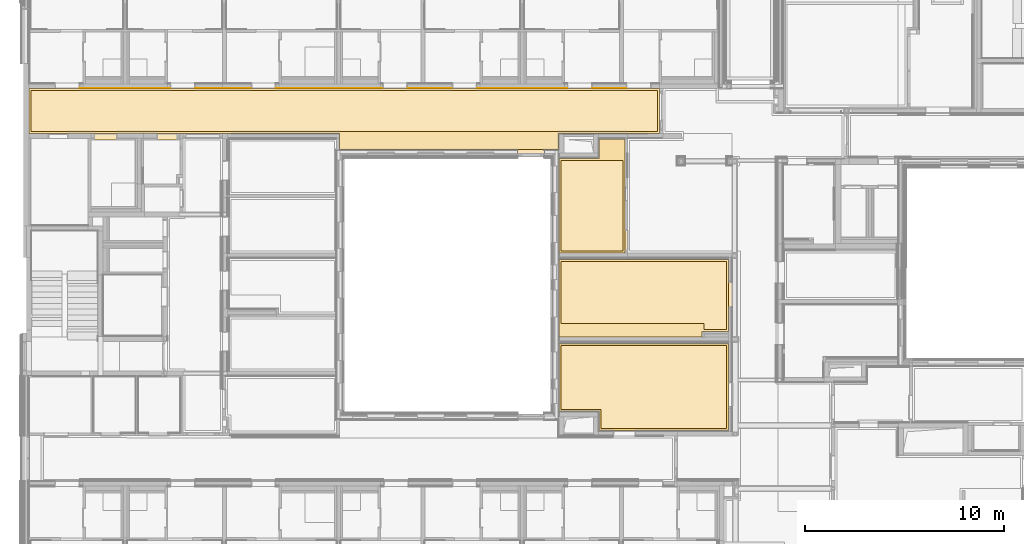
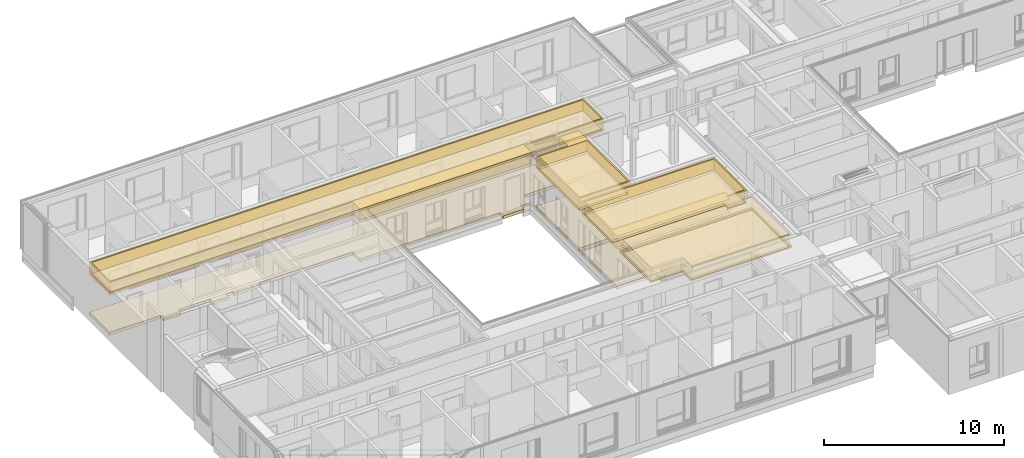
# One storey, part 164 of 207: 33 coverings.
"""IFC4 building model written with IfcOpenShell, lengths in metres."""

from ifc_helpers import new_model, entity, si_unit, converted_unit, derived_unit, frame, frame_2d, origin, origin_with_axes, place, context, subcontext, project, spatial, polyline, rectangle, outline, extrude, material, layer, layer_set, layer_usage, element, save


model = new_model("IFC4")

# Units and contexts
model_context = context("Model", 3, precision=1e-05, world=origin())
body_context = subcontext(model_context, "Body", "Model", "MODEL_VIEW")
ifc_project = project(units=[si_unit("LENGTHUNIT", "METRE"), si_unit("AREAUNIT", "SQUARE_METRE"), si_unit("VOLUMEUNIT", "CUBIC_METRE"), si_unit("MASSUNIT", "GRAM", prefix="KILO"), converted_unit("PLANEANGLEUNIT", "DEGREE", entity("IfcPlaneAngleMeasure", 0.0174532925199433), si_unit("PLANEANGLEUNIT", "RADIAN"), dimensions=[0, 0, 0, 0, 0, 0, 0]), derived_unit("THERMALTRANSMITTANCEUNIT", [(si_unit("POWERUNIT", "WATT"), 1), (si_unit("THERMODYNAMICTEMPERATUREUNIT", "KELVIN"), -1), (si_unit("LENGTHUNIT", "METRE"), -2)]), derived_unit("VOLUMETRICFLOWRATEUNIT", [(si_unit("LENGTHUNIT", "METRE"), 3), (converted_unit("TIMEUNIT", "hour", entity("IfcTimeMeasure", 3600.0), si_unit("TIMEUNIT", "SECOND"), dimensions=[0, 0, 1, 0, 0, 0, 0]), -1), (si_unit("LENGTHUNIT", "METRE"), -1)])], contexts=[model_context])

# Site, building, storey, space
site_placement = place(None, origin())
site = spatial("IfcSite", under=ifc_project, at=site_placement, Name="Psychiatrie Neubau Wunstorf", CompositionType="ELEMENT")
building_placement = place(site_placement, origin())
building = spatial("IfcBuilding", under=site, at=building_placement, Name="Neubau H2 Stationsgebäude", CompositionType="ELEMENT")
storey_placement = place(building_placement, frame((0.0, 0.0, -0.2)))
storey = spatial("IfcBuildingStorey", under=building, at=storey_placement, Name="H2 Ebene 0", CompositionType="ELEMENT", Elevation=-0.2)
space_1_placement = place(storey_placement, frame((0.169000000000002, 21.036, 0.0)))
space_1 = spatial("IfcSpace", under=storey, at=space_1_placement, Name="WUN-H2-E00-F06", CompositionType="ELEMENT")

# Coverings
ifc_material_1 = material(Name="Ku1")
ifc_layer_1 = layer(ifc_material_1, 0.2)
ifc_layer_set_1 = layer_set([ifc_layer_1])
ifc_layer_usage_1 = layer_usage(ifc_layer_set_1, "AXIS3", "POSITIVE", 0.0)
covering_1_placement = place(space_1_placement, frame((0.0, -0.372, 0.0)))
element("IfcCovering", 1, at=covering_1_placement, inside=space_1, material=ifc_layer_usage_1, Name="PVC Bahnenware Holzoptik", PredefinedType="FLOORING", context=body_context, shape_type="SweptSolid", body=[
    extrude(rectangle(XDim=0.372, YDim=1.35000000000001, at=frame_2d((0.675000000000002, -0.186), x_axis=(-9.77951292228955e-15, -1.0))), frame((24.6011686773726, 0.372, 0.0), z_axis=(0.0, 0.0, 1.0), x_axis=(1.0, 0.0, 0.0)), (0.0, 0.0, 1.0), 0.2),
    extrude(rectangle(XDim=0.307, YDim=1.01, at=frame_2d((0.505, -0.1535), x_axis=(0.0, -1.0))), frame((6.44599350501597, 1.172, 0.0), z_axis=(0.0, 0.0, 1.0), x_axis=(1.0, 0.0, 0.0)), (0.0, 0.0, 1.0), 0.2),
    extrude(rectangle(XDim=0.155, YDim=1.6825, at=frame_2d((0.84125, -0.0775), x_axis=(0.0, -1.0))), frame((7.911, 1.172, 0.0), z_axis=(0.0, 0.0, 1.0), x_axis=(1.0, 0.0, 0.0)), (0.0, 0.0, 1.0), 0.2),
    extrude(rectangle(XDim=0.307, YDim=1.135, at=frame_2d((0.5675, -0.1535), x_axis=(0.0, -1.0))), frame((3.28100622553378, 1.172, 0.0), z_axis=(0.0, 0.0, 1.0), x_axis=(1.0, 0.0, 0.0)), (0.0, 0.0, 1.0), 0.2),
    extrude(outline(polyline([(31.759, 3.08150000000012), (0.0, 3.08150000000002), (0.0, 0.799999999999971), (15.62, 0.799999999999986), (15.62, 0.0), (26.651, 0.0), (26.651, 0.800000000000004), (31.759, 0.800000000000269), (31.759, 3.08150000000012)])), frame((0.0, 0.372, 0.0), z_axis=(0.0, 0.0, 1.0), x_axis=(1.0, 0.0, 0.0)), (0.0, 0.0, 1.0), 0.2),
])
ifc_material_2 = material(Name="97")
ifc_layer_2 = layer(ifc_material_2, 0.001)
ifc_layer_set_2 = layer_set([ifc_layer_2])
ifc_layer_usage_2 = layer_usage(ifc_layer_set_2, "AXIS3", "POSITIVE", 0.0)
covering_2_placement = place(space_1_placement, frame((2.556, 3.0815, 0.8)))
element("IfcCovering", 2, at=covering_2_placement, inside=space_1, material=ifc_layer_usage_2, Name="Handlauf", PredefinedType="CLADDING", context=body_context, shape_type="SweptSolid", body=[
    extrude(rectangle(XDim=0.1, YDim=4.55, at=frame_2d((2.275, 0.05), x_axis=(0.0, 1.0))), frame((4.55, 0.0, 0.1), z_axis=(-7.99555781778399e-16, -1.0, 0.0), x_axis=(-1.0, 7.99555781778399e-16, 0.0)), (0.0, 0.0, 1.0), 0.001),
    extrude(rectangle(XDim=0.1, YDim=4.55, at=frame_2d((-2.275, -0.05), x_axis=(0.0, -1.0))), frame((20.0, 0.0, 0.0), z_axis=(-1.1993336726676e-15, -1.0, 1.81898940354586e-14), x_axis=(-1.0, 1.1993336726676e-15, 0.0)), (0.0, 0.0, 1.0), 0.001),
    extrude(rectangle(XDim=0.1, YDim=2.805, at=frame_2d((-1.4025, -0.05), x_axis=(0.0, -1.0))), frame((5.81, 0.0, 0.0), z_axis=(0.0, -1.0, 0.0), x_axis=(-1.0, 0.0, 0.0)), (0.0, 0.0, 1.0), 0.001),
    extrude(rectangle(XDim=0.1, YDim=2.24, at=frame_2d((-1.12, -0.05), x_axis=(0.0, -1.0))), frame((16.5, 0.0, 0.0), z_axis=(-1.62409768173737e-15, -1.0, 3.63797880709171e-14), x_axis=(-1.0, 1.62409768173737e-15, 0.0)), (0.0, 0.0, 1.0), 0.001),
    extrude(rectangle(XDim=0.1, YDim=5.365, at=frame_2d((-2.6825, -0.05), x_axis=(0.0, -1.0))), frame((9.875, 0.0, 0.0), z_axis=(-6.78094838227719e-16, -1.0, 0.0), x_axis=(-1.0, 6.78094838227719e-16, 0.0)), (0.0, 0.0, 1.0), 0.001),
    extrude(rectangle(XDim=0.1, YDim=1.715, at=frame_2d((-0.8575, -0.05), x_axis=(0.0, -1.0))), frame((25.81, 0.0, 0.0), z_axis=(0.0, -1.0, 0.0), x_axis=(-1.0, 0.0, 0.0)), (0.0, 0.0, 1.0), 0.001),
])
ifc_material_3 = material()
ifc_layer_3 = layer(ifc_material_3, 0.036)
ifc_layer_set_3 = layer_set([ifc_layer_3])
ifc_layer_usage_3 = layer_usage(ifc_layer_set_3, "AXIS3", "POSITIVE", 0.0)
covering_3_placement = place(space_1_placement, frame((0.0999999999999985, 0.900000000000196, 3.6)))
element("IfcCovering", 3, at=covering_3_placement, inside=space_1, material=ifc_layer_usage_3, Name="Gipsfaserplatten 2-lagig (BSK)", PredefinedType="CEILING", context=body_context, shape_type="SweptSolid", body=[
    extrude(rectangle(XDim=31.559, YDim=2.08149999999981, at=frame_2d((15.7795, 1.04074999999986), x_axis=(1.0, -2.99716242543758e-15))), frame((0.0, 2.08149999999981, 0.0), z_axis=(0.0, 0.0, -1.0), x_axis=(1.0, 0.0, 0.0)), (0.0, 0.0, 1.0), 0.036),
])
ifc_material_4 = material(Name="Installationshöhe")
ifc_layer_4 = layer(ifc_material_4, 0.714)
ifc_layer_set_4 = layer_set([ifc_layer_4])
ifc_layer_usage_4 = layer_usage(ifc_layer_set_4, "AXIS3", "POSITIVE", 0.0)
covering_4_placement = place(space_1_placement, frame((0.0999999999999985, 0.900000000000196, 3.564)))
element("IfcCovering", 4, at=covering_4_placement, inside=space_1, material=ifc_layer_usage_4, Name="Gipsfaserplatten 2-lagig (BSK)", PredefinedType="CEILING", context=body_context, shape_type="SweptSolid", body=[
    extrude(rectangle(XDim=31.559, YDim=2.08149999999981, at=frame_2d((15.7795, 1.04074999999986), x_axis=(1.0, -2.99716242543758e-15))), frame((0.0, 2.08149999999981, 0.0), z_axis=(0.0, 0.0, -1.0), x_axis=(1.0, 0.0, 0.0)), (0.0, 0.0, 1.0), 0.714),
])
ifc_material_5 = material(Name="Aa")
ifc_layer_5 = layer(ifc_material_5, 0.15)
ifc_layer_set_5 = layer_set([ifc_layer_5])
ifc_layer_usage_5 = layer_usage(ifc_layer_set_5, "AXIS3", "POSITIVE", 0.0)
covering_5_placement = place(space_1_placement, frame((0.0999999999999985, 0.900000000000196, 2.85)))
element("IfcCovering", 5, at=covering_5_placement, inside=space_1, material=ifc_layer_usage_5, Name="Gipsfaserplatten 2-lagig (BSK)", PredefinedType="CEILING", context=body_context, shape_type="SweptSolid", body=[
    extrude(rectangle(XDim=31.559, YDim=2.08149999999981, at=frame_2d((15.7795, 1.04074999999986), x_axis=(1.0, -2.99716242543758e-15))), frame((0.0, 2.08149999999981, 0.0), z_axis=(0.0, 0.0, -1.0), x_axis=(1.0, 0.0, 0.0)), (0.0, 0.0, 1.0), 0.15),
])
ifc_material_6 = material(Name="D1")
ifc_layer_6 = layer(ifc_material_6, 0.001)
ifc_layer_set_6 = layer_set([ifc_layer_6])
ifc_layer_usage_6 = layer_usage(ifc_layer_set_6, "AXIS3", "POSITIVE", 0.0)
covering_6_placement = place(space_1_placement, frame((0.0999999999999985, 0.900000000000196, 2.7)))
element("IfcCovering", 6, at=covering_6_placement, inside=space_1, material=ifc_layer_usage_6, Name="Gipsfaserplatten 2-lagig (BSK)", PredefinedType="CEILING", context=body_context, shape_type="SweptSolid", body=[
    extrude(rectangle(XDim=31.559, YDim=2.08149999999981, at=frame_2d((15.7795, 1.04074999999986), x_axis=(1.0, -2.99716242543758e-15))), frame((0.0, 2.08149999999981, 0.0), z_axis=(0.0, 0.0, -1.0), x_axis=(1.0, 0.0, 0.0)), (0.0, 0.0, 1.0), 0.001),
])
ifc_material_7 = material()
ifc_layer_7 = layer(ifc_material_7, 0.036)
ifc_layer_set_7 = layer_set([ifc_layer_7])
ifc_layer_usage_7 = layer_usage(ifc_layer_set_7, "AXIS3", "POSITIVE", 0.0)
covering_7_placement = place(space_1_placement, frame((0.0, 0.0, 3.6)))
element("IfcCovering", 7, at=covering_7_placement, inside=space_1, material=ifc_layer_usage_7, Name="Gipsfaserplatten 2-lagig (BSK)", PredefinedType="CEILING", context=body_context, shape_type="SweptSolid", body=[
    extrude(outline(polyline([(0.0, 0.0), (31.759, 0.0), (31.759, 2.28150000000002), (26.651, 2.28150000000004), (26.651, 3.08150000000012), (15.62, 3.08150000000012), (15.62, 2.28150000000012), (0.0, 2.28150000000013), (0.0, 0.0)]), holes=[polyline([(0.1, 0.100000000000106), (0.1, 2.18149999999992), (31.659, 2.18149999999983), (31.659, 0.100000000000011), (0.1, 0.100000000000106)])]), frame((0.0, 3.08150000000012, 0.0), z_axis=(0.0, 0.0, -1.0), x_axis=(1.0, 0.0, 0.0)), (0.0, 0.0, 1.0), 0.036),
])
ifc_material_8 = material(Name="Installationshöhe")
ifc_layer_8 = layer(ifc_material_8, 0.714)
ifc_layer_set_8 = layer_set([ifc_layer_8])
ifc_layer_usage_8 = layer_usage(ifc_layer_set_8, "AXIS3", "POSITIVE", 0.0)
covering_8_placement = place(space_1_placement, frame((0.0, 0.0, 3.564)))
element("IfcCovering", 8, at=covering_8_placement, inside=space_1, material=ifc_layer_usage_8, Name="Gipsfaserplatten 2-lagig (BSK)", PredefinedType="CEILING", context=body_context, shape_type="SweptSolid", body=[
    extrude(outline(polyline([(0.0, 0.0), (31.759, 0.0), (31.759, 2.28150000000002), (26.651, 2.28150000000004), (26.651, 3.08150000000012), (15.62, 3.08150000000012), (15.62, 2.28150000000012), (0.0, 2.28150000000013), (0.0, 0.0)]), holes=[polyline([(0.1, 0.100000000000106), (0.1, 2.18149999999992), (31.659, 2.18149999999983), (31.659, 0.100000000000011), (0.1, 0.100000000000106)])]), frame((0.0, 3.08150000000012, 0.0), z_axis=(0.0, 0.0, -1.0), x_axis=(1.0, 0.0, 0.0)), (0.0, 0.0, 1.0), 0.714),
])
ifc_material_9 = material(Name="A1")
ifc_layer_9 = layer(ifc_material_9, 0.15)
ifc_layer_set_9 = layer_set([ifc_layer_9])
ifc_layer_usage_9 = layer_usage(ifc_layer_set_9, "AXIS3", "POSITIVE", 0.0)
covering_9_placement = place(space_1_placement, frame((0.0, 0.0, 2.85)))
element("IfcCovering", 9, at=covering_9_placement, inside=space_1, material=ifc_layer_usage_9, Name="Gipsfaserplatten 2-lagig (BSK)", PredefinedType="CEILING", context=body_context, shape_type="SweptSolid", body=[
    extrude(outline(polyline([(0.0, 0.0), (31.759, 0.0), (31.759, 2.28150000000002), (26.651, 2.28150000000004), (26.651, 3.08150000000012), (15.62, 3.08150000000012), (15.62, 2.28150000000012), (0.0, 2.28150000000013), (0.0, 0.0)]), holes=[polyline([(0.1, 0.100000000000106), (0.1, 2.18149999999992), (31.659, 2.18149999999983), (31.659, 0.100000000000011), (0.1, 0.100000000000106)])]), frame((0.0, 3.08150000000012, 0.0), z_axis=(0.0, 0.0, -1.0), x_axis=(1.0, 0.0, 0.0)), (0.0, 0.0, 1.0), 0.15),
])
ifc_material_10 = material(Name="D1")
ifc_layer_10 = layer(ifc_material_10, 0.001)
ifc_layer_set_10 = layer_set([ifc_layer_10])
ifc_layer_usage_10 = layer_usage(ifc_layer_set_10, "AXIS3", "POSITIVE", 0.0)
covering_10_placement = place(space_1_placement, frame((0.0, 0.0, 2.7)))
element("IfcCovering", 10, at=covering_10_placement, inside=space_1, material=ifc_layer_usage_10, Name="Gipsfaserplatten 2-lagig (BSK)", PredefinedType="CEILING", context=body_context, shape_type="SweptSolid", body=[
    extrude(outline(polyline([(0.0, 0.0), (31.759, 0.0), (31.759, 2.28150000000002), (26.651, 2.28150000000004), (26.651, 3.08150000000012), (15.62, 3.08150000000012), (15.62, 2.28150000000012), (0.0, 2.28150000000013), (0.0, 0.0)]), holes=[polyline([(0.1, 0.100000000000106), (0.1, 2.18149999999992), (31.659, 2.18149999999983), (31.659, 0.100000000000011), (0.1, 0.100000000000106)])]), frame((0.0, 3.08150000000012, 0.0), z_axis=(0.0, 0.0, -1.0), x_axis=(1.0, 0.0, 0.0)), (0.0, 0.0, 1.0), 0.001),
])

# Space
space_2_placement = place(storey_placement, frame((26.861, 15.8324990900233, 0.0)))
space_2 = spatial("IfcSpace", under=storey, at=space_2_placement, Name="WUN-H2-E00-007", CompositionType="ELEMENT")

# Coverings
ifc_material_11 = material(Name="Ku1")
ifc_layer_11 = layer(ifc_material_11, 0.2)
ifc_layer_set_11 = layer_set([ifc_layer_11])
ifc_layer_usage_11 = layer_usage(ifc_layer_set_11, "AXIS3", "POSITIVE", 0.0)
covering_11_placement = place(space_2_placement, origin())
element("IfcCovering", 11, at=covering_11_placement, inside=space_2, material=ifc_layer_usage_11, Name="PVC Bahnenware Holzoptik", PredefinedType="FLOORING", context=body_context, shape_type="SweptSolid", body=[
    extrude(rectangle(XDim=0.15, YDim=1.01, at=frame_2d((0.075, 0.504999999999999), x_axis=(1.0, 0.0))), frame((3.30584904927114, 0.125009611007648, 0.0), z_axis=(0.0, 0.0, 1.0), x_axis=(1.0, 0.0, 0.0)), (0.0, 0.0, 1.0), 0.2),
    extrude(outline(polyline([(2.01900000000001, 4.76250090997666), (0.0, 4.76250090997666), (0.0, 0.0), (3.30584904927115, 0.0), (3.30584904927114, 5.73300090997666), (2.01899999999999, 5.73150090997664), (2.01900000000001, 4.76250090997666)])), origin_with_axes(), (0.0, 0.0, 1.0), 0.2),
])
ifc_material_12 = material()
ifc_layer_12 = layer(ifc_material_12, 0.036)
ifc_layer_set_12 = layer_set([ifc_layer_12])
ifc_layer_usage_12 = layer_usage(ifc_layer_set_12, "AXIS3", "POSITIVE", 0.0)
covering_12_placement = place(space_2_placement, frame((0.1, 0.100000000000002, 3.6)))
element("IfcCovering", 12, at=covering_12_placement, inside=space_2, material=ifc_layer_usage_12, Name="Gipsfaserplatten 2-lagig (BSK)", PredefinedType="CEILING", context=body_context, shape_type="SweptSolid", body=[
    extrude(rectangle(XDim=4.56250090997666, YDim=3.10584904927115, at=frame_2d((1.55292452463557, -2.28125045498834), x_axis=(-1.59473011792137e-15, -1.0))), frame((0.0, 0.0, 0.0), z_axis=(0.0, 0.0, -1.0), x_axis=(1.0, 0.0, 0.0)), (0.0, 0.0, 1.0), 0.036),
])
ifc_material_13 = material(Name="Installationshöhe")
ifc_layer_13 = layer(ifc_material_13, 0.714)
ifc_layer_set_13 = layer_set([ifc_layer_13])
ifc_layer_usage_13 = layer_usage(ifc_layer_set_13, "AXIS3", "POSITIVE", 0.0)
covering_13_placement = place(space_2_placement, frame((0.1, 0.100000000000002, 3.564)))
element("IfcCovering", 13, at=covering_13_placement, inside=space_2, material=ifc_layer_usage_13, Name="Gipsfaserplatten 2-lagig (BSK)", PredefinedType="CEILING", context=body_context, shape_type="SweptSolid", body=[
    extrude(rectangle(XDim=4.56250090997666, YDim=3.10584904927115, at=frame_2d((1.55292452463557, -2.28125045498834), x_axis=(-1.59473011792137e-15, -1.0))), frame((0.0, 0.0, 0.0), z_axis=(0.0, 0.0, -1.0), x_axis=(1.0, 0.0, 0.0)), (0.0, 0.0, 1.0), 0.714),
])
ifc_material_14 = material(Name="Aa")
ifc_layer_14 = layer(ifc_material_14, 0.15)
ifc_layer_set_14 = layer_set([ifc_layer_14])
ifc_layer_usage_14 = layer_usage(ifc_layer_set_14, "AXIS3", "POSITIVE", 0.0)
covering_14_placement = place(space_2_placement, frame((0.1, 0.100000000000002, 2.85)))
element("IfcCovering", 14, at=covering_14_placement, inside=space_2, material=ifc_layer_usage_14, Name="Gipsfaserplatten 2-lagig (BSK)", PredefinedType="CEILING", context=body_context, shape_type="SweptSolid", body=[
    extrude(rectangle(XDim=4.56250090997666, YDim=3.10584904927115, at=frame_2d((1.55292452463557, -2.28125045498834), x_axis=(-1.59473011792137e-15, -1.0))), frame((0.0, 0.0, 0.0), z_axis=(0.0, 0.0, -1.0), x_axis=(1.0, 0.0, 0.0)), (0.0, 0.0, 1.0), 0.15),
])
ifc_material_15 = material(Name="D1")
ifc_layer_15 = layer(ifc_material_15, 0.001)
ifc_layer_set_15 = layer_set([ifc_layer_15])
ifc_layer_usage_15 = layer_usage(ifc_layer_set_15, "AXIS3", "POSITIVE", 0.0)
covering_15_placement = place(space_2_placement, frame((0.1, 0.100000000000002, 2.7)))
element("IfcCovering", 15, at=covering_15_placement, inside=space_2, material=ifc_layer_usage_15, Name="Gipsfaserplatten 2-lagig (BSK)", PredefinedType="CEILING", context=body_context, shape_type="SweptSolid", body=[
    extrude(rectangle(XDim=4.56250090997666, YDim=3.10584904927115, at=frame_2d((1.55292452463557, -2.28125045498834), x_axis=(-1.59473011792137e-15, -1.0))), frame((0.0, 0.0, 0.0), z_axis=(0.0, 0.0, -1.0), x_axis=(1.0, 0.0, 0.0)), (0.0, 0.0, 1.0), 0.001),
])
ifc_material_16 = material()
ifc_layer_16 = layer(ifc_material_16, 0.036)
ifc_layer_set_16 = layer_set([ifc_layer_16])
ifc_layer_usage_16 = layer_usage(ifc_layer_set_16, "AXIS3", "POSITIVE", 0.0)
covering_16_placement = place(space_2_placement, frame((0.0, 0.0, 3.6)))
element("IfcCovering", 16, at=covering_16_placement, inside=space_2, material=ifc_layer_usage_16, Name="Gipsfaserplatten 2-lagig (BSK)", PredefinedType="CEILING", context=body_context, shape_type="SweptSolid", body=[
    extrude(outline(polyline([(0.0, 5.73300090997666), (0.0, 0.970499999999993), (2.01900000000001, 0.970499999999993), (2.01899999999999, 0.00150000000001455), (3.30584904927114, 0.0), (3.30584904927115, 5.73300090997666), (0.0, 5.73300090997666)]), holes=[polyline([(3.20584904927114, 5.63300090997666), (3.20584904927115, 1.07049999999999), (0.1, 1.07049999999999), (0.100000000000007, 5.63300090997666), (3.20584904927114, 5.63300090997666)])]), frame((0.0, 5.73300090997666, 0.0), z_axis=(0.0, 0.0, -1.0), x_axis=(1.0, 0.0, 0.0)), (0.0, 0.0, 1.0), 0.036),
])
ifc_material_17 = material(Name="Installationshöhe")
ifc_layer_17 = layer(ifc_material_17, 0.714)
ifc_layer_set_17 = layer_set([ifc_layer_17])
ifc_layer_usage_17 = layer_usage(ifc_layer_set_17, "AXIS3", "POSITIVE", 0.0)
covering_17_placement = place(space_2_placement, frame((0.0, 0.0, 3.564)))
element("IfcCovering", 17, at=covering_17_placement, inside=space_2, material=ifc_layer_usage_17, Name="Gipsfaserplatten 2-lagig (BSK)", PredefinedType="CEILING", context=body_context, shape_type="SweptSolid", body=[
    extrude(outline(polyline([(0.0, 5.73300090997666), (0.0, 0.970499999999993), (2.01900000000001, 0.970499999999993), (2.01899999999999, 0.00150000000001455), (3.30584904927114, 0.0), (3.30584904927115, 5.73300090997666), (0.0, 5.73300090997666)]), holes=[polyline([(3.20584904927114, 5.63300090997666), (3.20584904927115, 1.07049999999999), (0.1, 1.07049999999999), (0.100000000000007, 5.63300090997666), (3.20584904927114, 5.63300090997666)])]), frame((0.0, 5.73300090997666, 0.0), z_axis=(0.0, 0.0, -1.0), x_axis=(1.0, 0.0, 0.0)), (0.0, 0.0, 1.0), 0.714),
])
ifc_material_18 = material(Name="A1")
ifc_layer_18 = layer(ifc_material_18, 0.15)
ifc_layer_set_18 = layer_set([ifc_layer_18])
ifc_layer_usage_18 = layer_usage(ifc_layer_set_18, "AXIS3", "POSITIVE", 0.0)
covering_18_placement = place(space_2_placement, frame((0.0, 0.0, 2.85)))
element("IfcCovering", 18, at=covering_18_placement, inside=space_2, material=ifc_layer_usage_18, Name="Gipsfaserplatten 2-lagig (BSK)", PredefinedType="CEILING", context=body_context, shape_type="SweptSolid", body=[
    extrude(outline(polyline([(0.0, 5.73300090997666), (0.0, 0.970499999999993), (2.01900000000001, 0.970499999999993), (2.01899999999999, 0.00150000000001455), (3.30584904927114, 0.0), (3.30584904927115, 5.73300090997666), (0.0, 5.73300090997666)]), holes=[polyline([(3.20584904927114, 5.63300090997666), (3.20584904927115, 1.07049999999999), (0.1, 1.07049999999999), (0.100000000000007, 5.63300090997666), (3.20584904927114, 5.63300090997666)])]), frame((0.0, 5.73300090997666, 0.0), z_axis=(0.0, 0.0, -1.0), x_axis=(1.0, 0.0, 0.0)), (0.0, 0.0, 1.0), 0.15),
])

# Space
space_3_placement = place(storey_placement, frame((26.861, 11.589557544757, 0.0)))
space_3 = spatial("IfcSpace", under=storey, at=space_3_placement, Name="WUN-H2-E00-005", CompositionType="ELEMENT")

# Coverings
ifc_material_19 = material(Name="Ku1")
ifc_layer_19 = layer(ifc_material_19, 0.2)
ifc_layer_set_19 = layer_set([ifc_layer_19])
ifc_layer_usage_19 = layer_usage(ifc_layer_set_19, "AXIS3", "POSITIVE", 0.0)
covering_19_placement = place(space_3_placement, origin())
element("IfcCovering", 19, at=covering_19_placement, inside=space_3, material=ifc_layer_usage_19, Name="PVC Bahnenware Holzoptik", PredefinedType="FLOORING", context=body_context, shape_type="SweptSolid", body=[
    extrude(rectangle(XDim=0.19, YDim=1.26, at=frame_2d((-0.095, -0.63), x_axis=(-1.0, 0.0))), frame((8.70900000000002, 2.77044245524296, 0.0), z_axis=(0.0, 0.0, 1.0), x_axis=(1.0, 0.0, 0.0)), (0.0, 0.0, 1.0), 0.2),
    extrude(outline(polyline([(7.20900000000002, 0.0), (7.20900000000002, 0.275000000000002), (8.51900000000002, 0.275000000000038), (8.51900000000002, 3.92094154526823), (0.0, 3.9209415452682), (0.0, 0.0), (7.20900000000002, 0.0)])), origin_with_axes(), (0.0, 0.0, 1.0), 0.2),
])
ifc_material_20 = material()
ifc_layer_20 = layer(ifc_material_20, 0.036)
ifc_layer_set_20 = layer_set([ifc_layer_20])
ifc_layer_usage_20 = layer_usage(ifc_layer_set_20, "AXIS3", "POSITIVE", 0.0)
covering_20_placement = place(space_3_placement, frame((0.0, 0.0, 3.6)))
element("IfcCovering", 20, at=covering_20_placement, inside=space_3, material=ifc_layer_usage_20, Name="Gipsfaserplatten 2-lagig (BSK)", PredefinedType="CEILING", context=body_context, shape_type="SweptSolid", body=[
    extrude(outline(polyline([(8.51900000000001, 3.64594154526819), (7.20900000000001, 3.64594154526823), (7.20900000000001, 3.92094154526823), (0.0, 3.92094154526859), (0.0, 0.0), (8.51900000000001, 0.0), (8.51900000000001, 3.64594154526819)]), holes=[polyline([(7.30900000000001, 3.54594154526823), (8.41900000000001, 3.54594154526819), (8.41900000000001, 0.100000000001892), (0.1, 0.100000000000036), (0.1, 3.22094154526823), (7.30900000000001, 3.22094154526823), (7.30900000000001, 3.54594154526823)])]), frame((0.0, 3.92094154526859, 0.0), z_axis=(0.0, 0.0, -1.0), x_axis=(1.0, 0.0, 0.0)), (0.0, 0.0, 1.0), 0.036),
])
ifc_material_21 = material(Name="Installationshöhe")
ifc_layer_21 = layer(ifc_material_21, 0.714)
ifc_layer_set_21 = layer_set([ifc_layer_21])
ifc_layer_usage_21 = layer_usage(ifc_layer_set_21, "AXIS3", "POSITIVE", 0.0)
covering_21_placement = place(space_3_placement, frame((0.0, 0.0, 3.564)))
element("IfcCovering", 21, at=covering_21_placement, inside=space_3, material=ifc_layer_usage_21, Name="Gipsfaserplatten 2-lagig (BSK)", PredefinedType="CEILING", context=body_context, shape_type="SweptSolid", body=[
    extrude(outline(polyline([(8.51900000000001, 3.64594154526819), (7.20900000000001, 3.64594154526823), (7.20900000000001, 3.92094154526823), (0.0, 3.92094154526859), (0.0, 0.0), (8.51900000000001, 0.0), (8.51900000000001, 3.64594154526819)]), holes=[polyline([(7.30900000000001, 3.54594154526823), (8.41900000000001, 3.54594154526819), (8.41900000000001, 0.100000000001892), (0.1, 0.100000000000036), (0.1, 3.22094154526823), (7.30900000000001, 3.22094154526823), (7.30900000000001, 3.54594154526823)])]), frame((0.0, 3.92094154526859, 0.0), z_axis=(0.0, 0.0, -1.0), x_axis=(1.0, 0.0, 0.0)), (0.0, 0.0, 1.0), 0.714),
])
ifc_material_22 = material(Name="A1")
ifc_layer_22 = layer(ifc_material_22, 0.15)
ifc_layer_set_22 = layer_set([ifc_layer_22])
ifc_layer_usage_22 = layer_usage(ifc_layer_set_22, "AXIS3", "POSITIVE", 0.0)
covering_22_placement = place(space_3_placement, frame((0.0, 0.0, 2.85)))
element("IfcCovering", 22, at=covering_22_placement, inside=space_3, material=ifc_layer_usage_22, Name="Gipsfaserplatten 2-lagig (BSK)", PredefinedType="CEILING", context=body_context, shape_type="SweptSolid", body=[
    extrude(outline(polyline([(8.51900000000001, 3.64594154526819), (7.20900000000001, 3.64594154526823), (7.20900000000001, 3.92094154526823), (0.0, 3.92094154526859), (0.0, 0.0), (8.51900000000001, 0.0), (8.51900000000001, 3.64594154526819)]), holes=[polyline([(7.30900000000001, 3.54594154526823), (8.41900000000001, 3.54594154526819), (8.41900000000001, 0.100000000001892), (0.1, 0.100000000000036), (0.1, 3.22094154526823), (7.30900000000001, 3.22094154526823), (7.30900000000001, 3.54594154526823)])]), frame((0.0, 3.92094154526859, 0.0), z_axis=(0.0, 0.0, -1.0), x_axis=(1.0, 0.0, 0.0)), (0.0, 0.0, 1.0), 0.15),
])
ifc_material_23 = material(Name="D1")
ifc_layer_23 = layer(ifc_material_23, 0.001)
ifc_layer_set_23 = layer_set([ifc_layer_23])
ifc_layer_usage_23 = layer_usage(ifc_layer_set_23, "AXIS3", "POSITIVE", 0.0)
covering_23_placement = place(space_3_placement, frame((0.0, 0.0, 2.7)))
element("IfcCovering", 23, at=covering_23_placement, inside=space_3, material=ifc_layer_usage_23, Name="Gipsfaserplatten 2-lagig (BSK)", PredefinedType="CEILING", context=body_context, shape_type="SweptSolid", body=[
    extrude(outline(polyline([(8.51900000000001, 3.64594154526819), (7.20900000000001, 3.64594154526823), (7.20900000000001, 3.92094154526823), (0.0, 3.92094154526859), (0.0, 0.0), (8.51900000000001, 0.0), (8.51900000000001, 3.64594154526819)]), holes=[polyline([(7.30900000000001, 3.54594154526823), (8.41900000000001, 3.54594154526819), (8.41900000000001, 0.100000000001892), (0.1, 0.100000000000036), (0.1, 3.22094154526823), (7.30900000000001, 3.22094154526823), (7.30900000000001, 3.54594154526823)])]), frame((0.0, 3.92094154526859, 0.0), z_axis=(0.0, 0.0, -1.0), x_axis=(1.0, 0.0, 0.0)), (0.0, 0.0, 1.0), 0.001),
])
ifc_material_24 = material()
ifc_layer_24 = layer(ifc_material_24, 0.036)
ifc_layer_set_24 = layer_set([ifc_layer_24])
ifc_layer_usage_24 = layer_usage(ifc_layer_set_24, "AXIS3", "POSITIVE", 0.0)
covering_24_placement = place(space_3_placement, frame((0.100000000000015, 0.375000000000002, 3.6)))
element("IfcCovering", 24, at=covering_24_placement, inside=space_3, material=ifc_layer_usage_24, Name="Gipsfaserplatten 2-lagig (BSK)", PredefinedType="CEILING", context=body_context, shape_type="SweptSolid", body=[
    extrude(outline(polyline([(7.20900000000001, 3.44594154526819), (7.20900000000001, 3.1209415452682), (0.0, 3.1209415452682), (0.0, 0.0), (8.31900000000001, 0.0), (8.31900000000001, 3.44594154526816), (7.20900000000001, 3.44594154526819)])), frame((0.0, 3.44594154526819, 0.0), z_axis=(0.0, 0.0, -1.0), x_axis=(1.0, 0.0, 0.0)), (0.0, 0.0, 1.0), 0.036),
])
ifc_material_25 = material(Name="Installationshöhe")
ifc_layer_25 = layer(ifc_material_25, 0.714)
ifc_layer_set_25 = layer_set([ifc_layer_25])
ifc_layer_usage_25 = layer_usage(ifc_layer_set_25, "AXIS3", "POSITIVE", 0.0)
covering_25_placement = place(space_3_placement, frame((0.100000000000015, 0.375000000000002, 3.564)))
element("IfcCovering", 25, at=covering_25_placement, inside=space_3, material=ifc_layer_usage_25, Name="Gipsfaserplatten 2-lagig (BSK)", PredefinedType="CEILING", context=body_context, shape_type="SweptSolid", body=[
    extrude(outline(polyline([(7.20900000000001, 3.44594154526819), (7.20900000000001, 3.1209415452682), (0.0, 3.1209415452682), (0.0, 0.0), (8.31900000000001, 0.0), (8.31900000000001, 3.44594154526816), (7.20900000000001, 3.44594154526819)])), frame((0.0, 3.44594154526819, 0.0), z_axis=(0.0, 0.0, -1.0), x_axis=(1.0, 0.0, 0.0)), (0.0, 0.0, 1.0), 0.714),
])
ifc_material_26 = material(Name="Aa")
ifc_layer_26 = layer(ifc_material_26, 0.15)
ifc_layer_set_26 = layer_set([ifc_layer_26])
ifc_layer_usage_26 = layer_usage(ifc_layer_set_26, "AXIS3", "POSITIVE", 0.0)
covering_26_placement = place(space_3_placement, frame((0.100000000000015, 0.375000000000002, 2.85)))
element("IfcCovering", 26, at=covering_26_placement, inside=space_3, material=ifc_layer_usage_26, Name="Gipsfaserplatten 2-lagig (BSK)", PredefinedType="CEILING", context=body_context, shape_type="SweptSolid", body=[
    extrude(outline(polyline([(7.20900000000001, 3.44594154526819), (7.20900000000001, 3.1209415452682), (0.0, 3.1209415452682), (0.0, 0.0), (8.31900000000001, 0.0), (8.31900000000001, 3.44594154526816), (7.20900000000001, 3.44594154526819)])), frame((0.0, 3.44594154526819, 0.0), z_axis=(0.0, 0.0, -1.0), x_axis=(1.0, 0.0, 0.0)), (0.0, 0.0, 1.0), 0.15),
])
ifc_material_27 = material(Name="D1")
ifc_layer_27 = layer(ifc_material_27, 0.001)
ifc_layer_set_27 = layer_set([ifc_layer_27])
ifc_layer_usage_27 = layer_usage(ifc_layer_set_27, "AXIS3", "POSITIVE", 0.0)
covering_27_placement = place(space_3_placement, frame((0.100000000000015, 0.375000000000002, 2.7)))
element("IfcCovering", 27, at=covering_27_placement, inside=space_3, material=ifc_layer_usage_27, Name="Gipsfaserplatten 2-lagig (BSK)", PredefinedType="CEILING", context=body_context, shape_type="SweptSolid", body=[
    extrude(outline(polyline([(7.20900000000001, 3.44594154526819), (7.20900000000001, 3.1209415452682), (0.0, 3.1209415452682), (0.0, 0.0), (8.31900000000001, 0.0), (8.31900000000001, 3.44594154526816), (7.20900000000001, 3.44594154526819)])), frame((0.0, 3.44594154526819, 0.0), z_axis=(0.0, 0.0, -1.0), x_axis=(1.0, 0.0, 0.0)), (0.0, 0.0, 1.0), 0.001),
])

# Space
space_4_placement = place(storey_placement, frame((26.861, 6.88399999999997, 0.0)))
space_4 = spatial("IfcSpace", under=storey, at=space_4_placement, Name="WUN-H2-E00-004", CompositionType="ELEMENT")

# Coverings
ifc_material_28 = material(Name="A1")
ifc_layer_28 = layer(ifc_material_28, 0.15)
ifc_layer_set_28 = layer_set([ifc_layer_28])
ifc_layer_usage_28 = layer_usage(ifc_layer_set_28, "AXIS3", "POSITIVE", 0.0)
covering_28_placement = place(space_4_placement, frame((0.0, 0.0, 2.85)))
element("IfcCovering", 28, at=covering_28_placement, inside=space_4, material=ifc_layer_usage_28, Name="Gipsfaserplatten 2-lagig (BSK)", PredefinedType="CEILING", context=body_context, shape_type="SweptSolid", body=[
    extrude(outline(polyline([(0.0, 0.0), (8.51900000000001, 0.0), (8.51900000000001, 4.38355754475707), (2.01900000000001, 4.38355754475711), (2.01900000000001, 3.41255754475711), (0.0, 3.41255754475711), (0.0, 0.0)]), holes=[polyline([(2.11900000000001, 3.31255754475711), (2.11900000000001, 4.28355754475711), (8.41900000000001, 4.28355754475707), (8.41900000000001, 0.1), (0.100000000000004, 0.100000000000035), (0.100000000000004, 3.31255754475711), (2.11900000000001, 3.31255754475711)])]), frame((0.0, 4.38355754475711, 0.0), z_axis=(0.0, 0.0, -1.0), x_axis=(1.0, 0.0, 0.0)), (0.0, 0.0, 1.0), 0.15),
])
ifc_material_29 = material(Name="D1")
ifc_layer_29 = layer(ifc_material_29, 0.001)
ifc_layer_set_29 = layer_set([ifc_layer_29])
ifc_layer_usage_29 = layer_usage(ifc_layer_set_29, "AXIS3", "POSITIVE", 0.0)
covering_29_placement = place(space_4_placement, frame((0.0, 0.0, 2.7)))
element("IfcCovering", 29, at=covering_29_placement, inside=space_4, material=ifc_layer_usage_29, Name="Gipsfaserplatten 2-lagig (BSK)", PredefinedType="CEILING", context=body_context, shape_type="SweptSolid", body=[
    extrude(outline(polyline([(0.0, 0.0), (8.51900000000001, 0.0), (8.51900000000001, 4.38355754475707), (2.01900000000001, 4.38355754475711), (2.01900000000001, 3.41255754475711), (0.0, 3.41255754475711), (0.0, 0.0)]), holes=[polyline([(2.11900000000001, 3.31255754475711), (2.11900000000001, 4.28355754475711), (8.41900000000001, 4.28355754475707), (8.41900000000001, 0.1), (0.100000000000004, 0.100000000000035), (0.100000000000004, 3.31255754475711), (2.11900000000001, 3.31255754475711)])]), frame((0.0, 4.38355754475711, 0.0), z_axis=(0.0, 0.0, -1.0), x_axis=(1.0, 0.0, 0.0)), (0.0, 0.0, 1.0), 0.001),
])
ifc_material_30 = material()
ifc_layer_30 = layer(ifc_material_30, 0.036)
ifc_layer_set_30 = layer_set([ifc_layer_30])
ifc_layer_usage_30 = layer_usage(ifc_layer_set_30, "AXIS3", "POSITIVE", 0.0)
covering_30_placement = place(space_4_placement, frame((0.100000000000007, 0.1, 3.6)))
element("IfcCovering", 30, at=covering_30_placement, inside=space_4, material=ifc_layer_usage_30, Name="Gipsfaserplatten 2-lagig (BSK)", PredefinedType="CEILING", context=body_context, shape_type="SweptSolid", body=[
    extrude(outline(polyline([(2.01900000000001, 3.21255754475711), (0.0, 3.21255754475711), (0.0, 0.0), (8.31900000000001, 0.0), (8.31900000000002, 4.18355754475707), (2.01900000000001, 4.18355754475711), (2.01900000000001, 3.21255754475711)])), frame((0.0, 4.18355754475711, 0.0), z_axis=(0.0, 0.0, -1.0), x_axis=(1.0, 0.0, 0.0)), (0.0, 0.0, 1.0), 0.036),
])
ifc_material_31 = material(Name="Installationshöhe")
ifc_layer_31 = layer(ifc_material_31, 0.714)
ifc_layer_set_31 = layer_set([ifc_layer_31])
ifc_layer_usage_31 = layer_usage(ifc_layer_set_31, "AXIS3", "POSITIVE", 0.0)
covering_31_placement = place(space_4_placement, frame((0.100000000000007, 0.1, 3.564)))
element("IfcCovering", 31, at=covering_31_placement, inside=space_4, material=ifc_layer_usage_31, Name="Gipsfaserplatten 2-lagig (BSK)", PredefinedType="CEILING", context=body_context, shape_type="SweptSolid", body=[
    extrude(outline(polyline([(2.01900000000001, 3.21255754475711), (0.0, 3.21255754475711), (0.0, 0.0), (8.31900000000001, 0.0), (8.31900000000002, 4.18355754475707), (2.01900000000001, 4.18355754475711), (2.01900000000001, 3.21255754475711)])), frame((0.0, 4.18355754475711, 0.0), z_axis=(0.0, 0.0, -1.0), x_axis=(1.0, 0.0, 0.0)), (0.0, 0.0, 1.0), 0.714),
])
ifc_material_32 = material(Name="Aa")
ifc_layer_32 = layer(ifc_material_32, 0.15)
ifc_layer_set_32 = layer_set([ifc_layer_32])
ifc_layer_usage_32 = layer_usage(ifc_layer_set_32, "AXIS3", "POSITIVE", 0.0)
covering_32_placement = place(space_4_placement, frame((0.100000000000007, 0.1, 2.85)))
element("IfcCovering", 32, at=covering_32_placement, inside=space_4, material=ifc_layer_usage_32, Name="Gipsfaserplatten 2-lagig (BSK)", PredefinedType="CEILING", context=body_context, shape_type="SweptSolid", body=[
    extrude(outline(polyline([(2.01900000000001, 3.21255754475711), (0.0, 3.21255754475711), (0.0, 0.0), (8.31900000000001, 0.0), (8.31900000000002, 4.18355754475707), (2.01900000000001, 4.18355754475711), (2.01900000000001, 3.21255754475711)])), frame((0.0, 4.18355754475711, 0.0), z_axis=(0.0, 0.0, -1.0), x_axis=(1.0, 0.0, 0.0)), (0.0, 0.0, 1.0), 0.15),
])
ifc_material_33 = material(Name="D1")
ifc_layer_33 = layer(ifc_material_33, 0.001)
ifc_layer_set_33 = layer_set([ifc_layer_33])
ifc_layer_usage_33 = layer_usage(ifc_layer_set_33, "AXIS3", "POSITIVE", 0.0)
covering_33_placement = place(space_4_placement, frame((0.100000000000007, 0.1, 2.7)))
element("IfcCovering", 33, at=covering_33_placement, inside=space_4, material=ifc_layer_usage_33, Name="Gipsfaserplatten 2-lagig (BSK)", PredefinedType="CEILING", context=body_context, shape_type="SweptSolid", body=[
    extrude(outline(polyline([(2.01900000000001, 3.21255754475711), (0.0, 3.21255754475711), (0.0, 0.0), (8.31900000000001, 0.0), (8.31900000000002, 4.18355754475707), (2.01900000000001, 4.18355754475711), (2.01900000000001, 3.21255754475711)])), frame((0.0, 4.18355754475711, 0.0), z_axis=(0.0, 0.0, -1.0), x_axis=(1.0, 0.0, 0.0)), (0.0, 0.0, 1.0), 0.001),
])

save(model, "model.ifc")
